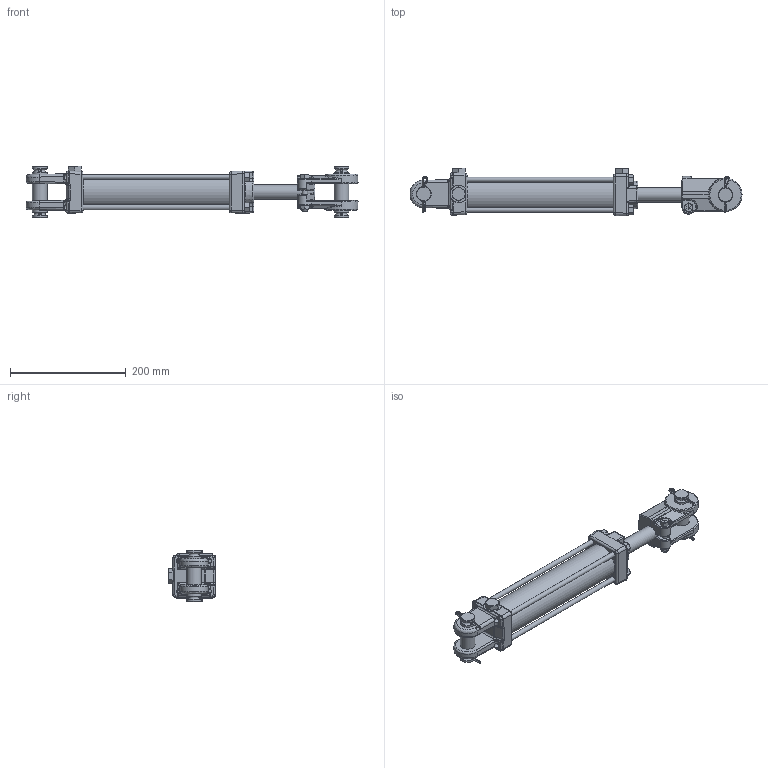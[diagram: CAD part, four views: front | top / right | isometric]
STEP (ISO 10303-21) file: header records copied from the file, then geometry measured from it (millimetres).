
FILE_DESCRIPTION((''),'2;1');
FILE_NAME('\\SRVR-ENG\EngSales\SAE-8408.stp','2011-01-18T13:55:14',('KneiflD'),(''),'Autodesk Inventor 2011','Autodesk Inventor 2011','');
FILE_SCHEMA(('AUTOMOTIVE_DESIGN { 1 0 10303 214 1 1 1 1 }'));
Length unit declared in the file: inch
Products named in the file (24): SAE-8408; 051110063A; 1411005SFV; 0811ABASFV; 010400008; 100000425V; 100000424V; 170002104V; 220000203V; 071100004V; 220000208V; 200300040V; 190400001V; 220001504V; 170103121; 220000103; 240000224V; 240061224V; 240063326V; 240000326V; 240000018V; 240037002V; 250001214V
Assembly tree (35 placements, depth 3):
  SAE-8408
    051110063A
    1411005SFV
    0811ABASFV
    010400008
    100000425V
      100000424V
      170002104V
      220000203V
    071100004V
    220000208V
    200300040V  x3
    190400001V  x2
    220001504V  x4
    170103121  x4
      170103121
      220000103
    240000224V  x2
    240061224V  x2
    240063326V  x2
    240000326V
    240000018V
    240037002V
    250001214V
Bounding box: 574.67 x 82.96 x 89.4 mm (x, y, z)
Volume: 1166183 mm3; surface area: 328073 mm2
Topology: 36 solids, 36 shells, 1000 faces, 2304 edges, 1375 vertices
Faces by surface type: plane 328, cylinder 255, bspline 181, cone 168, torus 46, sphere 22
Full cylindrical faces by diameter (mm): 1.143 x2, 5.159 x4, 7.798 x5, 7.938 x7, 8.458 x4, 9.493 x1, 10.319 x6, 16.764 x3, 17.066 x3, 17.501 x3, 17.704 x1, 18.999 x1, 19.05 x3, 19.126 x1, 21.59 x1, 25.4 x7, 25.425 x1, 25.476 x2, 25.781 x4, 28.397 x1, 28.423 x1, 30.175 x1, 31.115 x1, 31.725 x1, 31.75 x2, 34.925 x1, 41.402 x1, 44.45 x2, 44.958 x2, 45.161 x2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
Entity records: 27439 total; most frequent: CARTESIAN_POINT 9888, ORIENTED_EDGE 3390, DIRECTION 3358, EDGE_CURVE 1695, AXIS2_PLACEMENT_3D 1391, VERTEX_POINT 1074, EDGE_LOOP 989, FACE_OUTER_BOUND 793
